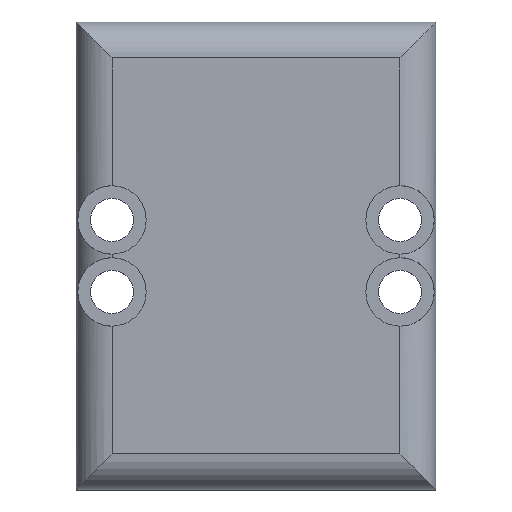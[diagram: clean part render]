
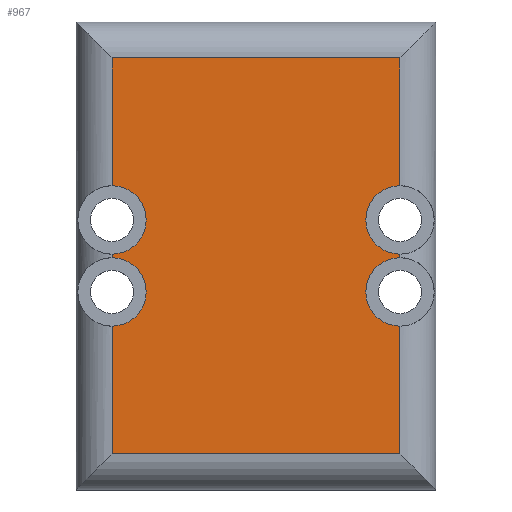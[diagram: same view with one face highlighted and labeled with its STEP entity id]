
A CAD part, top view. The second image highlights one B-rep face of the part: STEP entity #967.
In plain terms, the highlighted planar face has unit normal (0, 0, 1).
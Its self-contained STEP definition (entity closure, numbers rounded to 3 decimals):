
#1 = CARTESIAN_POINT ( 'NONE',  ( -8., 3.9, 3. ) ) ;
#2 = VERTEX_POINT ( 'NONE', #1102 ) ;
#5 = AXIS2_PLACEMENT_3D ( 'NONE', #1085, #75, #657 ) ;
#14 = CARTESIAN_POINT ( 'NONE',  ( 0., 0., 3. ) ) ;
#16 = DIRECTION ( 'NONE',  ( 1., 0., 0. ) ) ;
#21 = CARTESIAN_POINT ( 'NONE',  ( 8., 2., 3. ) ) ;
#31 = EDGE_CURVE ( 'NONE', #1105, #41, #468, .T. ) ;
#41 = VERTEX_POINT ( 'NONE', #1039 ) ;
#42 = CARTESIAN_POINT ( 'NONE',  ( 8., -2., 3. ) ) ;
#48 = CIRCLE ( 'NONE', #887, 1.9 ) ;
#56 = EDGE_CURVE ( 'NONE', #41, #2, #902, .T. ) ;
#59 = DIRECTION ( 'NONE',  ( 0., -1., 0. ) ) ;
#75 = DIRECTION ( 'NONE',  ( 0., 0., 1. ) ) ;
#83 = ORIENTED_EDGE ( 'NONE', *, *, #546, .F. ) ;
#91 = EDGE_CURVE ( 'NONE', #165, #178, #613, .T. ) ;
#98 = VECTOR ( 'NONE', #295, 1000. ) ;
#105 = CARTESIAN_POINT ( 'NONE',  ( -8., -11., 3. ) ) ;
#106 = ORIENTED_EDGE ( 'NONE', *, *, #91, .F. ) ;
#117 = EDGE_CURVE ( 'NONE', #1105, #932, #881, .T. ) ;
#126 = CARTESIAN_POINT ( 'NONE',  ( -8., -2., 3. ) ) ;
#127 = VERTEX_POINT ( 'NONE', #1066 ) ;
#165 = VERTEX_POINT ( 'NONE', #166 ) ;
#166 = CARTESIAN_POINT ( 'NONE',  ( 8., -0.1, 3. ) ) ;
#167 = ORIENTED_EDGE ( 'NONE', *, *, #1054, .F. ) ;
#178 = VERTEX_POINT ( 'NONE', #669 ) ;
#182 = CARTESIAN_POINT ( 'NONE',  ( -8., 0., 3. ) ) ;
#201 = ORIENTED_EDGE ( 'NONE', *, *, #56, .F. ) ;
#206 = ORIENTED_EDGE ( 'NONE', *, *, #117, .T. ) ;
#213 = CARTESIAN_POINT ( 'NONE',  ( 0., -11., 3. ) ) ;
#220 = EDGE_CURVE ( 'NONE', #327, #580, #945, .T. ) ;
#228 = LINE ( 'NONE', #568, #412 ) ;
#255 = DIRECTION ( 'NONE',  ( 0., 0., 1. ) ) ;
#259 = AXIS2_PLACEMENT_3D ( 'NONE', #476, #625, #988 ) ;
#285 = CARTESIAN_POINT ( 'NONE',  ( -6.1, 2., 3. ) ) ;
#293 = CIRCLE ( 'NONE', #1024, 1.9 ) ;
#295 = DIRECTION ( 'NONE',  ( 0., 1., 0. ) ) ;
#327 = VERTEX_POINT ( 'NONE', #801 ) ;
#350 = DIRECTION ( 'NONE',  ( 0., 0., 1. ) ) ;
#352 = VERTEX_POINT ( 'NONE', #552 ) ;
#364 = VECTOR ( 'NONE', #416, 1000. ) ;
#366 = AXIS2_PLACEMENT_3D ( 'NONE', #14, #350, #439 ) ;
#372 = ORIENTED_EDGE ( 'NONE', *, *, #797, .T. ) ;
#376 = LINE ( 'NONE', #816, #973 ) ;
#386 = CARTESIAN_POINT ( 'NONE',  ( 8., 13., 3. ) ) ;
#396 = CIRCLE ( 'NONE', #5, 1.9 ) ;
#401 = ORIENTED_EDGE ( 'NONE', *, *, #220, .T. ) ;
#406 = EDGE_CURVE ( 'NONE', #352, #127, #807, .T. ) ;
#412 = VECTOR ( 'NONE', #910, 1000. ) ;
#414 = VECTOR ( 'NONE', #551, 1000. ) ;
#416 = DIRECTION ( 'NONE',  ( 0., -1., 0. ) ) ;
#439 = DIRECTION ( 'NONE',  ( 1., 0., 0. ) ) ;
#456 = DIRECTION ( 'NONE',  ( 0., 0., 1. ) ) ;
#460 = VERTEX_POINT ( 'NONE', #825 ) ;
#466 = ORIENTED_EDGE ( 'NONE', *, *, #31, .F. ) ;
#467 = DIRECTION ( 'NONE',  ( 0., 0., 1. ) ) ;
#468 = CIRCLE ( 'NONE', #747, 1.9 ) ;
#476 = CARTESIAN_POINT ( 'NONE',  ( -8., 2., 3. ) ) ;
#479 = EDGE_CURVE ( 'NONE', #1052, #1050, #396, .T. ) ;
#482 = VECTOR ( 'NONE', #1107, 1000. ) ;
#490 = CARTESIAN_POINT ( 'NONE',  ( 8., 3.9, 3. ) ) ;
#493 = EDGE_CURVE ( 'NONE', #932, #327, #228, .T. ) ;
#500 = DIRECTION ( 'NONE',  ( 1., 0., 0. ) ) ;
#527 = VERTEX_POINT ( 'NONE', #618 ) ;
#542 = CARTESIAN_POINT ( 'NONE',  ( -8., 0.1, 3. ) ) ;
#546 = EDGE_CURVE ( 'NONE', #460, #527, #293, .T. ) ;
#551 = DIRECTION ( 'NONE',  ( 1., 0., 0. ) ) ;
#552 = CARTESIAN_POINT ( 'NONE',  ( 8., -11., 3. ) ) ;
#560 = AXIS2_PLACEMENT_3D ( 'NONE', #21, #588, #500 ) ;
#568 = CARTESIAN_POINT ( 'NONE',  ( 0., 11., 3. ) ) ;
#580 = VERTEX_POINT ( 'NONE', #1 ) ;
#588 = DIRECTION ( 'NONE',  ( 0., 0., 1. ) ) ;
#599 = DIRECTION ( 'NONE',  ( 0., 0., 1. ) ) ;
#613 = CIRCLE ( 'NONE', #650, 1.9 ) ;
#618 = CARTESIAN_POINT ( 'NONE',  ( -8., -0.1, 3. ) ) ;
#625 = DIRECTION ( 'NONE',  ( 0., 0., 1. ) ) ;
#643 = EDGE_CURVE ( 'NONE', #1052, #527, #376, .T. ) ;
#650 = AXIS2_PLACEMENT_3D ( 'NONE', #675, #255, #852 ) ;
#657 = DIRECTION ( 'NONE',  ( 1., 0., 0. ) ) ;
#663 = ORIENTED_EDGE ( 'NONE', *, *, #727, .T. ) ;
#669 = CARTESIAN_POINT ( 'NONE',  ( 6.1, -2., 3. ) ) ;
#675 = CARTESIAN_POINT ( 'NONE',  ( 8., -2., 3. ) ) ;
#683 = CARTESIAN_POINT ( 'NONE',  ( 8., 11., 3. ) ) ;
#705 = FACE_OUTER_BOUND ( 'NONE', #757, .T. ) ;
#711 = ORIENTED_EDGE ( 'NONE', *, *, #1049, .F. ) ;
#721 = CIRCLE ( 'NONE', #957, 1.9 ) ;
#722 = DIRECTION ( 'NONE',  ( 0., 1., 0. ) ) ;
#723 = EDGE_CURVE ( 'NONE', #863, #352, #980, .T. ) ;
#727 = EDGE_CURVE ( 'NONE', #165, #2, #1067, .T. ) ;
#747 = AXIS2_PLACEMENT_3D ( 'NONE', #943, #762, #16 ) ;
#757 = EDGE_LOOP ( 'NONE', ( #167, #372, #984, #1093, #869, #106, #663, #201, #466, #206, #914, #401, #711, #949, #1069, #83 ) ) ;
#762 = DIRECTION ( 'NONE',  ( 0., 0., 1. ) ) ;
#773 = PLANE ( 'NONE',  #366 ) ;
#788 = VECTOR ( 'NONE', #722, 1000. ) ;
#797 = EDGE_CURVE ( 'NONE', #1015, #863, #923, .T. ) ;
#798 = DIRECTION ( 'NONE',  ( 1., 0., 0. ) ) ;
#801 = CARTESIAN_POINT ( 'NONE',  ( -8., 11., 3. ) ) ;
#807 = LINE ( 'NONE', #386, #788 ) ;
#816 = CARTESIAN_POINT ( 'NONE',  ( -8., 0., 3. ) ) ;
#825 = CARTESIAN_POINT ( 'NONE',  ( -6.1, -2., 3. ) ) ;
#830 = DIRECTION ( 'NONE',  ( 0., 1., 0. ) ) ;
#843 = VECTOR ( 'NONE', #830, 1000. ) ;
#852 = DIRECTION ( 'NONE',  ( 1., 0., 0. ) ) ;
#863 = VERTEX_POINT ( 'NONE', #105 ) ;
#869 = ORIENTED_EDGE ( 'NONE', *, *, #1011, .F. ) ;
#881 = LINE ( 'NONE', #1055, #98 ) ;
#887 = AXIS2_PLACEMENT_3D ( 'NONE', #126, #456, #798 ) ;
#902 = CIRCLE ( 'NONE', #560, 1.9 ) ;
#910 = DIRECTION ( 'NONE',  ( -1., 0., 0. ) ) ;
#914 = ORIENTED_EDGE ( 'NONE', *, *, #493, .T. ) ;
#923 = LINE ( 'NONE', #927, #482 ) ;
#927 = CARTESIAN_POINT ( 'NONE',  ( -8., 0., 3. ) ) ;
#932 = VERTEX_POINT ( 'NONE', #683 ) ;
#942 = DIRECTION ( 'NONE',  ( 1., 0., 0. ) ) ;
#943 = CARTESIAN_POINT ( 'NONE',  ( 8., 2., 3. ) ) ;
#945 = LINE ( 'NONE', #182, #364 ) ;
#949 = ORIENTED_EDGE ( 'NONE', *, *, #479, .F. ) ;
#951 = CARTESIAN_POINT ( 'NONE',  ( -8., -2., 3. ) ) ;
#957 = AXIS2_PLACEMENT_3D ( 'NONE', #42, #467, #971 ) ;
#967 = ADVANCED_FACE ( 'NONE', ( #705 ), #773, .T. ) ;
#971 = DIRECTION ( 'NONE',  ( 1., 0., 0. ) ) ;
#973 = VECTOR ( 'NONE', #59, 1000. ) ;
#978 = CARTESIAN_POINT ( 'NONE',  ( -8., -3.9, 3. ) ) ;
#980 = LINE ( 'NONE', #213, #414 ) ;
#984 = ORIENTED_EDGE ( 'NONE', *, *, #723, .T. ) ;
#988 = DIRECTION ( 'NONE',  ( 1., 0., 0. ) ) ;
#1011 = EDGE_CURVE ( 'NONE', #178, #127, #721, .T. ) ;
#1015 = VERTEX_POINT ( 'NONE', #978 ) ;
#1024 = AXIS2_PLACEMENT_3D ( 'NONE', #951, #599, #942 ) ;
#1039 = CARTESIAN_POINT ( 'NONE',  ( 6.1, 2., 3. ) ) ;
#1049 = EDGE_CURVE ( 'NONE', #1050, #580, #1096, .T. ) ;
#1050 = VERTEX_POINT ( 'NONE', #285 ) ;
#1052 = VERTEX_POINT ( 'NONE', #542 ) ;
#1054 = EDGE_CURVE ( 'NONE', #1015, #460, #48, .T. ) ;
#1055 = CARTESIAN_POINT ( 'NONE',  ( 8., 13., 3. ) ) ;
#1066 = CARTESIAN_POINT ( 'NONE',  ( 8., -3.9, 3. ) ) ;
#1067 = LINE ( 'NONE', #1094, #843 ) ;
#1069 = ORIENTED_EDGE ( 'NONE', *, *, #643, .T. ) ;
#1085 = CARTESIAN_POINT ( 'NONE',  ( -8., 2., 3. ) ) ;
#1093 = ORIENTED_EDGE ( 'NONE', *, *, #406, .T. ) ;
#1094 = CARTESIAN_POINT ( 'NONE',  ( 8., 13., 3. ) ) ;
#1096 = CIRCLE ( 'NONE', #259, 1.9 ) ;
#1102 = CARTESIAN_POINT ( 'NONE',  ( 8., 0.1, 3. ) ) ;
#1105 = VERTEX_POINT ( 'NONE', #490 ) ;
#1107 = DIRECTION ( 'NONE',  ( 0., -1., 0. ) ) ;
